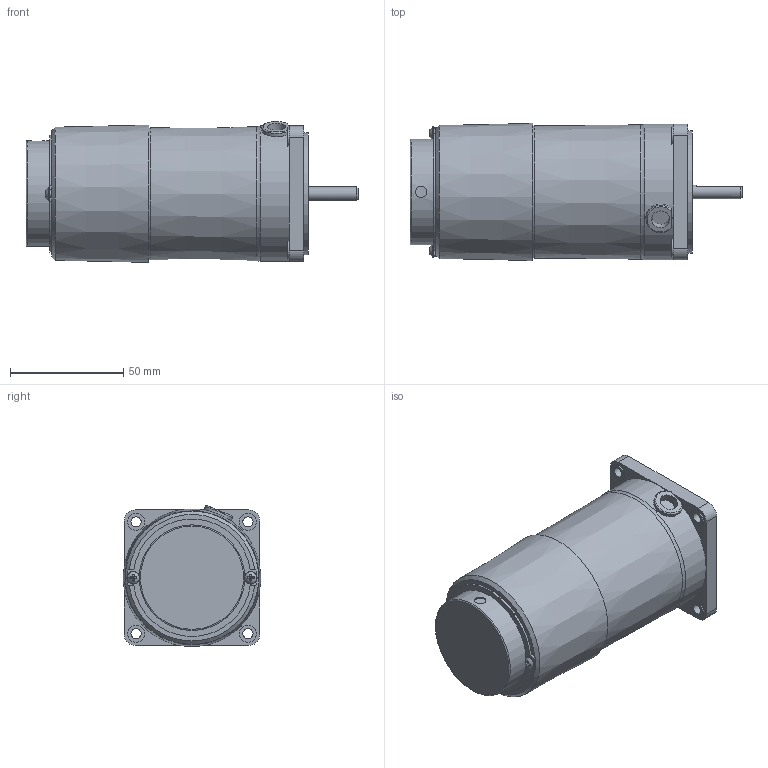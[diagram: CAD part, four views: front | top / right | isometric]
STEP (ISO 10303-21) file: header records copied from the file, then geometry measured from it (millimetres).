
FILE_DESCRIPTION(/* description */ (''),/* implementation_level */ '2;1');
FILE_NAME(/* name */ 'Y:\제품연구개발\3. 도면\3. 고객배포용\3D_홈페이지용\01-1 Standard AC SG Series\05-3 SPEED CONTROL ELECTROMAGNETIC BRAKE MOTOR(ES)\SG6R06_-ES12\SG6R06D-ES.stp',/* time_stamp */ '2023-11-28T11:59:34+09:00',/* author */ ('shyi1037'),/* organization */ (''),/* preprocessor_version */ 'ST-DEVELOPER v18.1',/* originating_system */ 'Autodesk Inventor 2022',/* authorisation */ '');
FILE_SCHEMA (('AUTOMOTIVE_DESIGN { 1 0 10303 214 3 1 1 }'));
Length unit declared in the file: millimetre
Products named in the file (1): SG6R06D-ES
Bounding box: 146.9 x 60.75 x 62.29 mm (x, y, z)
Volume: 333937.4 mm3; surface area: 32951.3 mm2
Topology: 1 solids, 3 shells, 157 faces, 413 edges, 269 vertices
Faces by surface type: plane 93, cylinder 49, torus 7, cone 6, bspline 2
Full cylindrical faces by diameter (mm): 3 x2, 4.5 x4, 5 x1, 6 x1, 7.5 x4, 8 x1, 10.1 x1, 25 x1, 46.7 x1, 54 x1, 58.5 x1, 60 x1
Entity records: 5381 total; most frequent: CARTESIAN_POINT 1338, ORIENTED_EDGE 826, DIRECTION 824, EDGE_CURVE 413, AXIS2_PLACEMENT_3D 303, VERTEX_POINT 269, LINE 218, VECTOR 218
